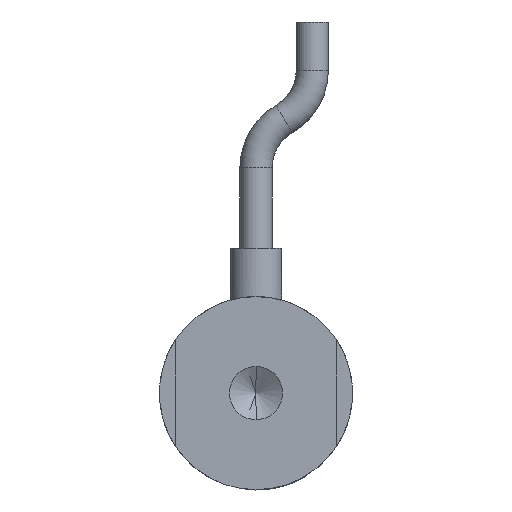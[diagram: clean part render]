
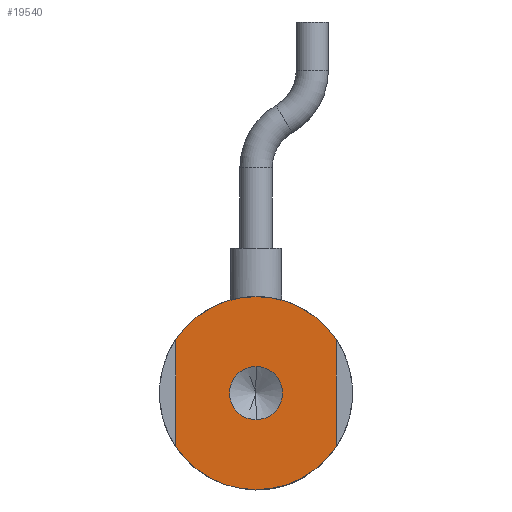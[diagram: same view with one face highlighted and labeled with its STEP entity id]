
A CAD part, front view. The second image highlights one B-rep face of the part: STEP entity #19540.
In plain terms, the highlighted planar face has unit normal (0, -1, 0).
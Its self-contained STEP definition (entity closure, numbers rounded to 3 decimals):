
#31 = ORIENTED_EDGE ( 'NONE', *, *, #38543, .F. ) ;
#74 = ORIENTED_EDGE ( 'NONE', *, *, #42960, .F. ) ;
#335 = ORIENTED_EDGE ( 'NONE', *, *, #12369, .F. ) ;
#462 = ORIENTED_EDGE ( 'NONE', *, *, #42637, .F. ) ;
#1718 = DIRECTION ( 'NONE',  ( 0., 0., 1. ) ) ;
#2122 = DIRECTION ( 'NONE',  ( 0., 0., 1. ) ) ;
#2717 = CARTESIAN_POINT ( 'NONE',  ( 0., 0., 0. ) ) ;
#3359 = CARTESIAN_POINT ( 'NONE',  ( -5., 0., 0. ) ) ;
#3869 = CARTESIAN_POINT ( 'NONE',  ( -5., 0., -3.317 ) ) ;
#4117 = VECTOR ( 'NONE', #36890, 1000. ) ;
#6217 = DIRECTION ( 'NONE',  ( 0., 0., 1. ) ) ;
#6237 = CARTESIAN_POINT ( 'NONE',  ( 0., 0., 0. ) ) ;
#7624 = DIRECTION ( 'NONE',  ( 0., -1., 0. ) ) ;
#9533 = CIRCLE ( 'NONE', #37987, 1.65 ) ;
#9690 = PLANE ( 'NONE',  #19006 ) ;
#10133 = CIRCLE ( 'NONE', #32159, 6. ) ;
#11400 = CARTESIAN_POINT ( 'NONE',  ( 0., 0., -1.65 ) ) ;
#12369 = EDGE_CURVE ( 'NONE', #40625, #13185, #14334, .T. ) ;
#13083 = DIRECTION ( 'NONE',  ( 0., 0., 1. ) ) ;
#13185 = VERTEX_POINT ( 'NONE', #11400 ) ;
#13223 = LINE ( 'NONE', #3359, #4117 ) ;
#13442 = CARTESIAN_POINT ( 'NONE',  ( -5., 0., 3.317 ) ) ;
#14282 = AXIS2_PLACEMENT_3D ( 'NONE', #36068, #36011, #35974 ) ;
#14334 = CIRCLE ( 'NONE', #14282, 1.65 ) ;
#15204 = CIRCLE ( 'NONE', #40044, 6. ) ;
#16757 = CARTESIAN_POINT ( 'NONE',  ( 0., 0., 0. ) ) ;
#16895 = VERTEX_POINT ( 'NONE', #29782 ) ;
#17100 = CARTESIAN_POINT ( 'NONE',  ( 5., 0., -3.317 ) ) ;
#17972 = VECTOR ( 'NONE', #37850, 1000. ) ;
#18299 = CIRCLE ( 'NONE', #18737, 6. ) ;
#18582 = CARTESIAN_POINT ( 'NONE',  ( 0., 0., -6. ) ) ;
#18737 = AXIS2_PLACEMENT_3D ( 'NONE', #2717, #26315, #6217 ) ;
#19006 = AXIS2_PLACEMENT_3D ( 'NONE', #6237, #32593, #13083 ) ;
#19540 = ADVANCED_FACE ( 'NONE', ( #27630, #27217 ), #9690, .F. ) ;
#20118 = DIRECTION ( 'NONE',  ( 0., 0., 1. ) ) ;
#20392 = CIRCLE ( 'NONE', #35060, 6. ) ;
#21359 = EDGE_CURVE ( 'NONE', #42980, #16895, #20392, .T. ) ;
#21568 = EDGE_LOOP ( 'NONE', ( #462, #335 ) ) ;
#21855 = EDGE_CURVE ( 'NONE', #31790, #24242, #18299, .T. ) ;
#22102 = DIRECTION ( 'NONE',  ( 0., 1., 0. ) ) ;
#22441 = EDGE_CURVE ( 'NONE', #30160, #42980, #15204, .T. ) ;
#22468 = DIRECTION ( 'NONE',  ( 0., 1., 0. ) ) ;
#23300 = VERTEX_POINT ( 'NONE', #3869 ) ;
#24242 = VERTEX_POINT ( 'NONE', #18582 ) ;
#26315 = DIRECTION ( 'NONE',  ( 0., 1., 0. ) ) ;
#27217 = FACE_OUTER_BOUND ( 'NONE', #39563, .T. ) ;
#27630 = FACE_BOUND ( 'NONE', #21568, .T. ) ;
#27654 = CARTESIAN_POINT ( 'NONE',  ( 0., 0., 0. ) ) ;
#29782 = CARTESIAN_POINT ( 'NONE',  ( 5., 0., 3.317 ) ) ;
#30160 = VERTEX_POINT ( 'NONE', #13442 ) ;
#31015 = DIRECTION ( 'NONE',  ( 0., 0., -1. ) ) ;
#31790 = VERTEX_POINT ( 'NONE', #17100 ) ;
#32159 = AXIS2_PLACEMENT_3D ( 'NONE', #16757, #39858, #20118 ) ;
#32593 = DIRECTION ( 'NONE',  ( 0., 1., 0. ) ) ;
#34579 = CARTESIAN_POINT ( 'NONE',  ( 5., 0., 0. ) ) ;
#35060 = AXIS2_PLACEMENT_3D ( 'NONE', #42261, #22468, #2122 ) ;
#35552 = LINE ( 'NONE', #34579, #17972 ) ;
#35974 = DIRECTION ( 'NONE',  ( 0., 0., -1. ) ) ;
#36011 = DIRECTION ( 'NONE',  ( 0., -1., 0. ) ) ;
#36068 = CARTESIAN_POINT ( 'NONE',  ( 0., 0., 0. ) ) ;
#36890 = DIRECTION ( 'NONE',  ( 0., 0., 1. ) ) ;
#37850 = DIRECTION ( 'NONE',  ( 0., 0., -1. ) ) ;
#37987 = AXIS2_PLACEMENT_3D ( 'NONE', #27654, #7624, #31015 ) ;
#38543 = EDGE_CURVE ( 'NONE', #24242, #23300, #10133, .T. ) ;
#39539 = CARTESIAN_POINT ( 'NONE',  ( 0., 0., 1.65 ) ) ;
#39563 = EDGE_LOOP ( 'NONE', ( #74, #31, #43142, #42779, #42616, #42139 ) ) ;
#39858 = DIRECTION ( 'NONE',  ( 0., 1., 0. ) ) ;
#40044 = AXIS2_PLACEMENT_3D ( 'NONE', #41895, #22102, #1718 ) ;
#40205 = CARTESIAN_POINT ( 'NONE',  ( 0., 0., 6. ) ) ;
#40625 = VERTEX_POINT ( 'NONE', #39539 ) ;
#41895 = CARTESIAN_POINT ( 'NONE',  ( 0., 0., 0. ) ) ;
#42139 = ORIENTED_EDGE ( 'NONE', *, *, #22441, .F. ) ;
#42261 = CARTESIAN_POINT ( 'NONE',  ( 0., 0., 0. ) ) ;
#42616 = ORIENTED_EDGE ( 'NONE', *, *, #21359, .F. ) ;
#42637 = EDGE_CURVE ( 'NONE', #13185, #40625, #9533, .T. ) ;
#42779 = ORIENTED_EDGE ( 'NONE', *, *, #43205, .F. ) ;
#42960 = EDGE_CURVE ( 'NONE', #23300, #30160, #13223, .T. ) ;
#42980 = VERTEX_POINT ( 'NONE', #40205 ) ;
#43142 = ORIENTED_EDGE ( 'NONE', *, *, #21855, .F. ) ;
#43205 = EDGE_CURVE ( 'NONE', #16895, #31790, #35552, .T. ) ;
